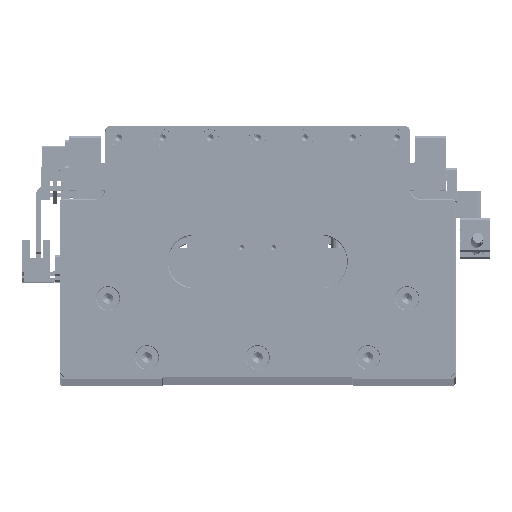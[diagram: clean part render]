
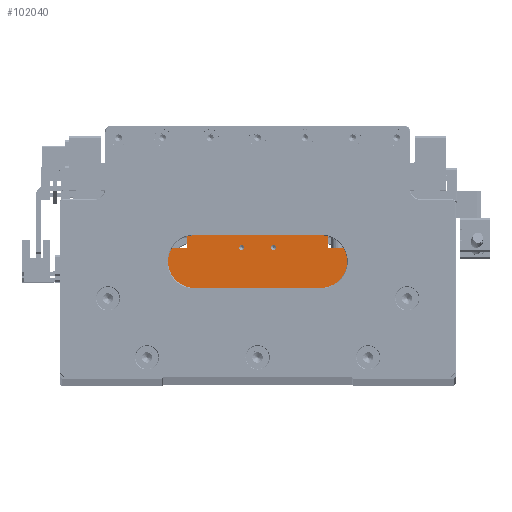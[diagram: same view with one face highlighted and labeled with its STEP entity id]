
A CAD part, top view. The second image highlights one B-rep face of the part: STEP entity #102040.
In plain terms, the highlighted planar face has unit normal (0, 0, 1).
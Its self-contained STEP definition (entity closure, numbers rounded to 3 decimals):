
#1283 = EDGE_CURVE ( 'NONE', #74258, #37621, #37024, .T. ) ;
#1866 = AXIS2_PLACEMENT_3D ( 'NONE', #32972, #42424, #108106 ) ;
#3078 = VECTOR ( 'NONE', #22444, 1000. ) ;
#3202 = CARTESIAN_POINT ( 'NONE',  ( 33.5, 0., 125. ) ) ;
#6829 = EDGE_CURVE ( 'NONE', #68785, #106422, #66780, .T. ) ;
#7927 = LINE ( 'NONE', #108404, #79867 ) ;
#8984 = LINE ( 'NONE', #97589, #3078 ) ;
#10791 = ORIENTED_EDGE ( 'NONE', *, *, #43463, .T. ) ;
#12939 = LINE ( 'NONE', #65511, #62930 ) ;
#13865 = VECTOR ( 'NONE', #67957, 1000. ) ;
#14984 = CARTESIAN_POINT ( 'NONE',  ( -7.5, -8., 125. ) ) ;
#16964 = ORIENTED_EDGE ( 'NONE', *, *, #84365, .T. ) ;
#18481 = VERTEX_POINT ( 'NONE', #62159 ) ;
#21027 = CARTESIAN_POINT ( 'NONE',  ( -7.5, -8., 125. ) ) ;
#21551 = VERTEX_POINT ( 'NONE', #45104 ) ;
#21947 = CARTESIAN_POINT ( 'NONE',  ( 6.25, -8., 125. ) ) ;
#22444 = DIRECTION ( 'NONE',  ( -1., 0., 0. ) ) ;
#23941 = ORIENTED_EDGE ( 'NONE', *, *, #49807, .T. ) ;
#24343 = EDGE_CURVE ( 'NONE', #106940, #96921, #105665, .T. ) ;
#24411 = DIRECTION ( 'NONE',  ( 1., 0., 0. ) ) ;
#24418 = EDGE_LOOP ( 'NONE', ( #23941, #67129, #16964, #66259, #63517, #106262, #60267, #30620 ) ) ;
#29251 = CARTESIAN_POINT ( 'NONE',  ( 7.5, -8., 125. ) ) ;
#30234 = ORIENTED_EDGE ( 'NONE', *, *, #1283, .T. ) ;
#30467 = DIRECTION ( 'NONE',  ( 1., 0., 0. ) ) ;
#30548 = CARTESIAN_POINT ( 'NONE',  ( -33.5, 0., 125. ) ) ;
#30620 = ORIENTED_EDGE ( 'NONE', *, *, #6829, .T. ) ;
#30895 = VERTEX_POINT ( 'NONE', #3202 ) ;
#31085 = DIRECTION ( 'NONE',  ( 0., -1., 0. ) ) ;
#31623 = CIRCLE ( 'NONE', #42146, 1.25 ) ;
#31866 = ORIENTED_EDGE ( 'NONE', *, *, #99181, .T. ) ;
#32972 = CARTESIAN_POINT ( 'NONE',  ( 0., 0., 125. ) ) ;
#33931 = CARTESIAN_POINT ( 'NONE',  ( -45., -8., 125. ) ) ;
#34544 = EDGE_CURVE ( 'NONE', #30895, #68785, #68245, .T. ) ;
#35279 = EDGE_CURVE ( 'NONE', #100647, #18481, #109222, .T. ) ;
#37024 = CIRCLE ( 'NONE', #92221, 1.25 ) ;
#37621 = VERTEX_POINT ( 'NONE', #21947 ) ;
#38658 = CIRCLE ( 'NONE', #66992, 1.25 ) ;
#38687 = DIRECTION ( 'NONE',  ( 1., 0., 0. ) ) ;
#38697 = CARTESIAN_POINT ( 'NONE',  ( -33.5, -8., 125. ) ) ;
#42146 = AXIS2_PLACEMENT_3D ( 'NONE', #21027, #86787, #30467 ) ;
#42424 = DIRECTION ( 'NONE',  ( 0., 0., 1. ) ) ;
#43463 = EDGE_CURVE ( 'NONE', #21551, #71049, #31623, .T. ) ;
#44621 = VERTEX_POINT ( 'NONE', #45628 ) ;
#45104 = CARTESIAN_POINT ( 'NONE',  ( -8.75, -8., 125. ) ) ;
#45628 = CARTESIAN_POINT ( 'NONE',  ( 33.5, -8., 125. ) ) ;
#45808 = CARTESIAN_POINT ( 'NONE',  ( 7.5, -8., 125. ) ) ;
#49807 = EDGE_CURVE ( 'NONE', #106422, #100647, #12939, .T. ) ;
#51007 = CIRCLE ( 'NONE', #120480, 1.25 ) ;
#54919 = VECTOR ( 'NONE', #62007, 1000. ) ;
#55281 = DIRECTION ( 'NONE',  ( 1., 0., 0. ) ) ;
#55743 = VECTOR ( 'NONE', #80875, 1000. ) ;
#60094 = FACE_BOUND ( 'NONE', #68234, .T. ) ;
#60267 = ORIENTED_EDGE ( 'NONE', *, *, #34544, .T. ) ;
#62007 = DIRECTION ( 'NONE',  ( 0., 1., 0. ) ) ;
#62159 = CARTESIAN_POINT ( 'NONE',  ( -45., -40.2, 125. ) ) ;
#62930 = VECTOR ( 'NONE', #74574, 1000. ) ;
#63517 = ORIENTED_EDGE ( 'NONE', *, *, #95859, .T. ) ;
#65309 = VECTOR ( 'NONE', #98035, 1000. ) ;
#65511 = CARTESIAN_POINT ( 'NONE',  ( 0., -8., 125. ) ) ;
#66259 = ORIENTED_EDGE ( 'NONE', *, *, #24343, .T. ) ;
#66780 = LINE ( 'NONE', #30548, #13865 ) ;
#66992 = AXIS2_PLACEMENT_3D ( 'NONE', #29251, #94979, #38687 ) ;
#67129 = ORIENTED_EDGE ( 'NONE', *, *, #35279, .T. ) ;
#67957 = DIRECTION ( 'NONE',  ( 0., -1., 0. ) ) ;
#68234 = EDGE_LOOP ( 'NONE', ( #97478, #10791 ) ) ;
#68245 = LINE ( 'NONE', #69685, #65309 ) ;
#68785 = VERTEX_POINT ( 'NONE', #117234 ) ;
#69685 = CARTESIAN_POINT ( 'NONE',  ( 0., 0., 125. ) ) ;
#71049 = VERTEX_POINT ( 'NONE', #88629 ) ;
#74258 = VERTEX_POINT ( 'NONE', #119582 ) ;
#74574 = DIRECTION ( 'NONE',  ( -1., 0., 0. ) ) ;
#76922 = LINE ( 'NONE', #118177, #54919 ) ;
#79867 = VECTOR ( 'NONE', #98979, 1000. ) ;
#80722 = DIRECTION ( 'NONE',  ( 0., 0., -1. ) ) ;
#80875 = DIRECTION ( 'NONE',  ( 0., 1., 0. ) ) ;
#84120 = EDGE_LOOP ( 'NONE', ( #30234, #31866 ) ) ;
#84365 = EDGE_CURVE ( 'NONE', #18481, #106940, #7927, .T. ) ;
#84387 = EDGE_CURVE ( 'NONE', #44621, #30895, #76922, .T. ) ;
#84734 = CARTESIAN_POINT ( 'NONE',  ( 45., -8., 125. ) ) ;
#85027 = CARTESIAN_POINT ( 'NONE',  ( 45., -40.2, 125. ) ) ;
#85156 = FACE_BOUND ( 'NONE', #84120, .T. ) ;
#86787 = DIRECTION ( 'NONE',  ( 0., 0., -1. ) ) ;
#87410 = CARTESIAN_POINT ( 'NONE',  ( -45., 0., 125. ) ) ;
#88098 = FACE_OUTER_BOUND ( 'NONE', #24418, .T. ) ;
#88629 = CARTESIAN_POINT ( 'NONE',  ( -6.25, -8., 125. ) ) ;
#88850 = EDGE_CURVE ( 'NONE', #71049, #21551, #51007, .T. ) ;
#89294 = PLANE ( 'NONE',  #1866 ) ;
#90328 = CARTESIAN_POINT ( 'NONE',  ( 45., 0., 125. ) ) ;
#92221 = AXIS2_PLACEMENT_3D ( 'NONE', #45808, #111465, #55281 ) ;
#94979 = DIRECTION ( 'NONE',  ( 0., 0., -1. ) ) ;
#95859 = EDGE_CURVE ( 'NONE', #96921, #44621, #8984, .T. ) ;
#96921 = VERTEX_POINT ( 'NONE', #84734 ) ;
#97478 = ORIENTED_EDGE ( 'NONE', *, *, #88850, .T. ) ;
#97589 = CARTESIAN_POINT ( 'NONE',  ( 0., -8., 125. ) ) ;
#98035 = DIRECTION ( 'NONE',  ( -1., 0., 0. ) ) ;
#98979 = DIRECTION ( 'NONE',  ( 1., 0., 0. ) ) ;
#99181 = EDGE_CURVE ( 'NONE', #37621, #74258, #38658, .T. ) ;
#100647 = VERTEX_POINT ( 'NONE', #33931 ) ;
#102040 = ADVANCED_FACE ( 'NONE', ( #88098, #85156, #60094 ), #89294, .T. ) ;
#105665 = LINE ( 'NONE', #90328, #55743 ) ;
#106262 = ORIENTED_EDGE ( 'NONE', *, *, #84387, .T. ) ;
#106292 = VECTOR ( 'NONE', #31085, 1000. ) ;
#106422 = VERTEX_POINT ( 'NONE', #38697 ) ;
#106940 = VERTEX_POINT ( 'NONE', #85027 ) ;
#108106 = DIRECTION ( 'NONE',  ( 1., 0., 0. ) ) ;
#108404 = CARTESIAN_POINT ( 'NONE',  ( -45., -40.2, 125. ) ) ;
#109222 = LINE ( 'NONE', #87410, #106292 ) ;
#111465 = DIRECTION ( 'NONE',  ( 0., 0., -1. ) ) ;
#117234 = CARTESIAN_POINT ( 'NONE',  ( -33.5, 0., 125. ) ) ;
#118177 = CARTESIAN_POINT ( 'NONE',  ( 33.5, 0., 125. ) ) ;
#119582 = CARTESIAN_POINT ( 'NONE',  ( 8.75, -8., 125. ) ) ;
#120480 = AXIS2_PLACEMENT_3D ( 'NONE', #14984, #80722, #24411 ) ;
